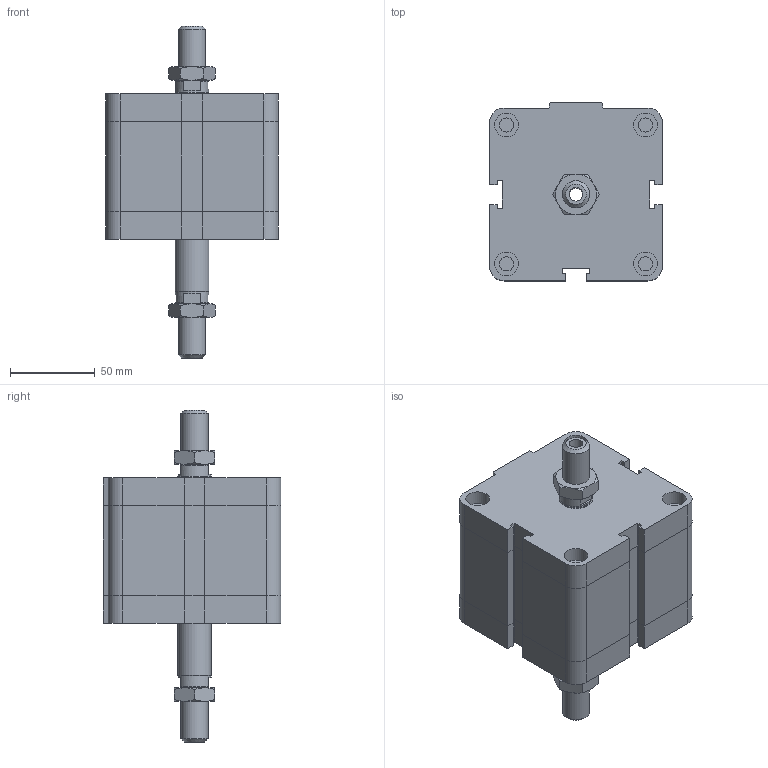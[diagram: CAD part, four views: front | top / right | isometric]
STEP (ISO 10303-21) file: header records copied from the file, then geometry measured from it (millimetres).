
FILE_DESCRIPTION((''),'2;1');
FILE_NAME('I:\Area Tecnica\Disegni\VARIE-3D\Componenti\EUROPE\15##_###_####_05_#\1581_80_0030_05_1.iam.stp','2009-04-20T15:02:56',(''),(''),'Autodesk Inventor 2009','Autodesk Inventor 2009','');
FILE_SCHEMA(('AUTOMOTIVE_DESIGN { 1 0 10303 214 1 1 1 1 }'));
Length unit declared in the file: millimetre
Products named in the file (4): 1581_80_0030_05_1; 1581_80_0030_03_1_C; 1561_80_0030_05_1_S; DBFM16
Assembly tree (4 placements, depth 2):
  1581_80_0030_05_1
    1581_80_0030_03_1_C
    1561_80_0030_05_1_S
    DBFM16  x2
Bounding box: 102 x 105 x 196 mm (x, y, z)
Volume: 875041.2 mm3; surface area: 91939.5 mm2
Topology: 4 solids, 4 shells, 223 faces, 486 edges, 291 vertices
Faces by surface type: plane 129, cone 37, bspline 32, cylinder 25
Full cylindrical faces by diameter (mm): 8.376 x4, 14 x4, 14.5 x1, 16 x1, 19.5 x2, 20 x1
Entity records: 5484 total; most frequent: CARTESIAN_POINT 1227, DIRECTION 808, ORIENTED_EDGE 776, EDGE_CURVE 388, AXIS2_PLACEMENT_3D 275, EDGE_LOOP 262, VECTOR 258, LINE 258
